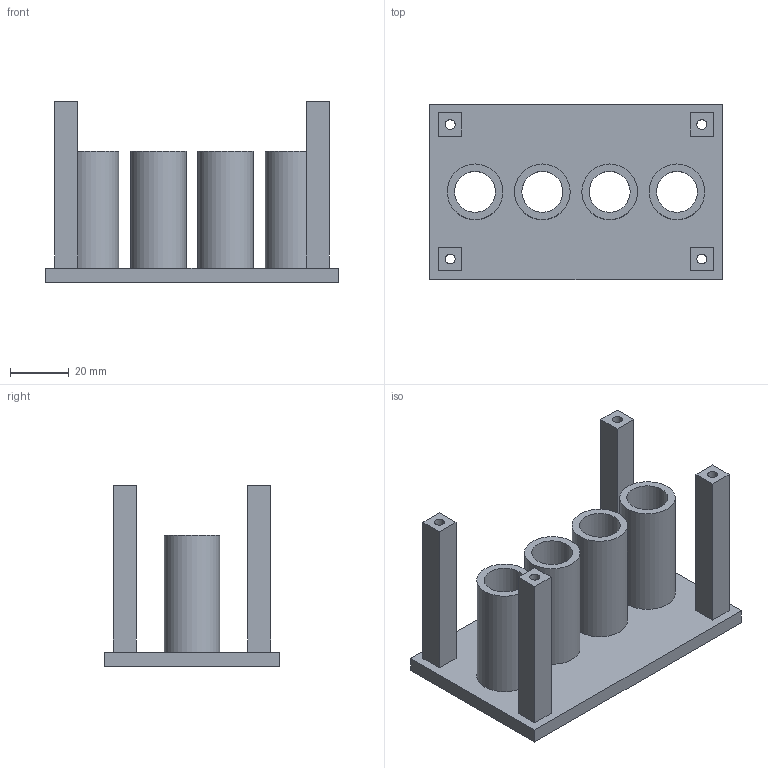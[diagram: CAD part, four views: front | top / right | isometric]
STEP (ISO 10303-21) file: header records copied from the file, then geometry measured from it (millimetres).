
FILE_DESCRIPTION(('Open CASCADE Model'),'2;1');
FILE_NAME('Open CASCADE Shape Model','2026-10-21T17:23:51',('Author'),( 'Open CASCADE'),'Open CASCADE STEP processor 7.9','Open CASCADE 7.9' ,'Unknown');
FILE_SCHEMA(('AUTOMOTIVE_DESIGN { 1 0 10303 214 1 1 1 1 }'));
Length unit declared in the file: millimetre
Products named in the file (1): Open CASCADE STEP translator 7.9 35
Bounding box: 100 x 60 x 62 mm (x, y, z)
Volume: 59904 mm3; surface area: 39610.3 mm2
Topology: 1 solids, 1 shells, 46 faces, 104 edges, 68 vertices
Faces by surface type: plane 30, cylinder 12, cone 4
Full cylindrical faces by diameter (mm): 3.4 x4, 14 x4, 19 x4
Entity records: 2726 total; most frequent: CARTESIAN_POINT 523, DIRECTION 418, LINE 260, VECTOR 260, ORIENTED_EDGE 208, PCURVE 208, DEFINITIONAL_REPRESENTATION 208, EDGE_CURVE 104
